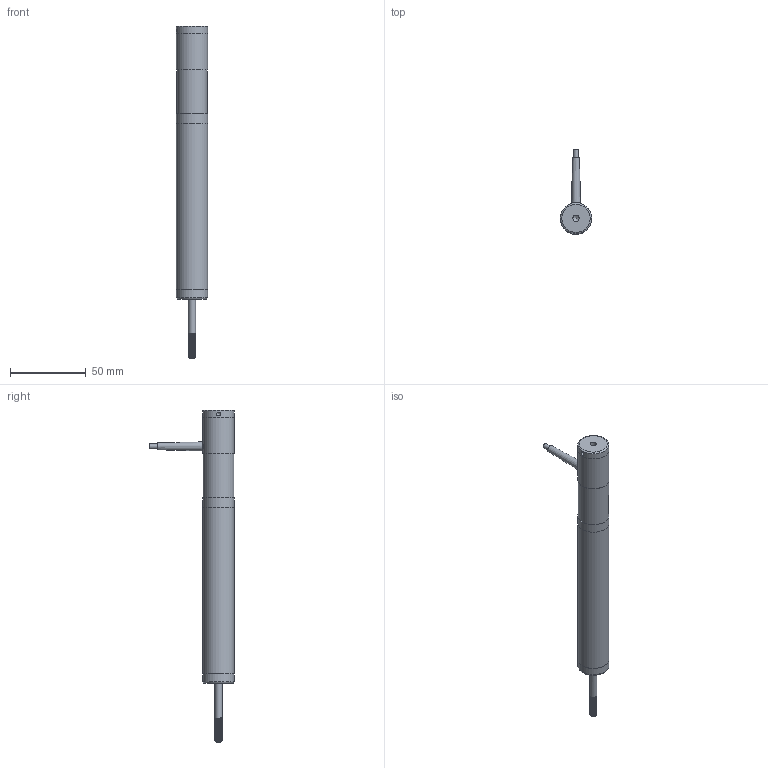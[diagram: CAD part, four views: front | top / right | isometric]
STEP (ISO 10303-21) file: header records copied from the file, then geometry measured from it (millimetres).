
FILE_DESCRIPTION (( 'STEP AP214' ), '1' );
FILE_NAME ('RACC-50.STEP', '2019-04-23T09:15:09', ( '' ), ( '' ), 'SwSTEP 2.0', 'SolidWorks 2017', '' );
FILE_SCHEMA (( 'AUTOMOTIVE_DESIGN' ));
Length unit declared in the file: millimetre
Products named in the file (9): RACC-50-Kern; RACC_Endstück; RACC-50; RACC_Frontstück; RACC-50_Schubstange; RACC-50_Gehäuse; RACC_Gehäuse-Kabelausgang; RACC_Kabel_D3-2_L35; RACC_Kabelgummitülle
Assembly tree (8 placements, depth 2):
  RACC-50
    RACC-50_Gehäuse
    RACC_Gehäuse-Kabelausgang
    RACC_Endstück
    RACC_Kabelgummitülle
    RACC_Kabel_D3-2_L35
    RACC_Frontstück
    RACC-50-Kern
    RACC-50_Schubstange
Bounding box: 20.6 x 55.6 x 218.86 mm (x, y, z)
Volume: 60294.3 mm3; surface area: 22098.3 mm2
Topology: 8 solids, 8 shells, 145 faces, 342 edges, 227 vertices
Faces by surface type: plane 56, bspline 43, cylinder 40, cone 6
Full cylindrical faces by diameter (mm): 2.5 x1, 3.2 x2, 4.2 x1, 4.8 x19, 5 x1, 6 x3, 6.2 x1, 10 x2, 20.2 x1, 20.6 x5
Entity records: 9848 total; most frequent: CARTESIAN_POINT 7072, ORIENTED_EDGE 510, DIRECTION 382, EDGE_CURVE 255, VERTEX_POINT 183, EDGE_LOOP 170, FACE_OUTER_BOUND 144, AXIS2_PLACEMENT_3D 137
